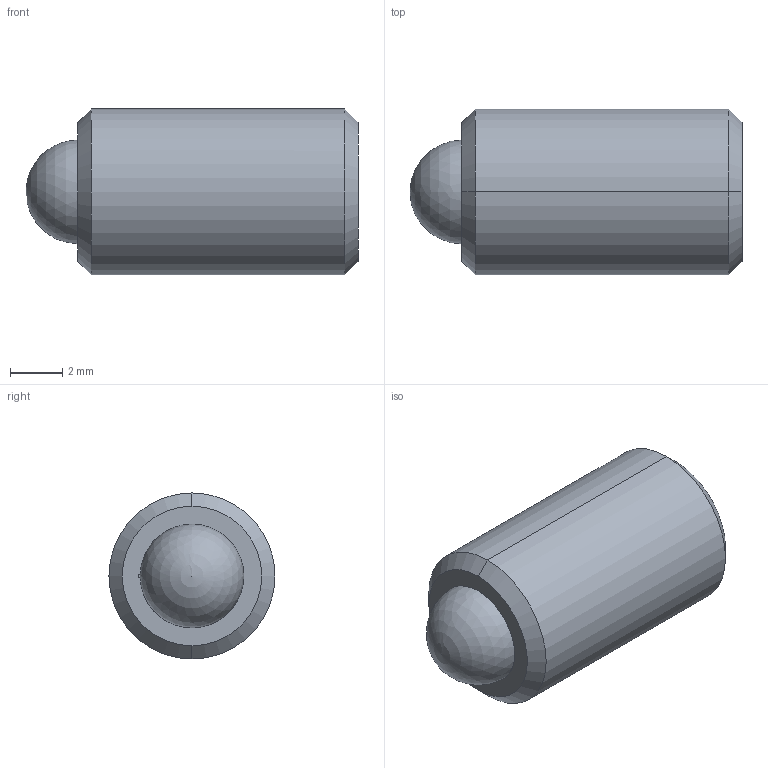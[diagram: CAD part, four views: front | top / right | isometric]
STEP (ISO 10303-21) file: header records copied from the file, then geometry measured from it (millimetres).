
FILE_DESCRIPTION (( 'STEP AP214' ), '1' );
FILE_NAME ('TS250-80-500-HV.STEP', '2013-05-09T12:55:21', ( 'workpc' ), ( 'Microsoft' ), 'SwSTEP 2.0', 'SolidWorks 2013', '' );
FILE_SCHEMA (( 'AUTOMOTIVE_DESIGN' ));
Length unit declared in the file: inch
Products named in the file (1): TS250-80-500-HV
Bounding box: 12.7 x 6.35 x 6.35 mm (x, y, z)
Volume: 331.5 mm3; surface area: 357.8 mm2
Topology: 2 solids, 2 shells, 29 faces, 69 edges, 44 vertices
Faces by surface type: cylinder 12, plane 11, cone 4, sphere 2
Entity records: 886 total; most frequent: DIRECTION 149, CARTESIAN_POINT 144, ORIENTED_EDGE 128, EDGE_CURVE 64, AXIS2_PLACEMENT_3D 58, VERTEX_POINT 41, LINE 33, VECTOR 33
